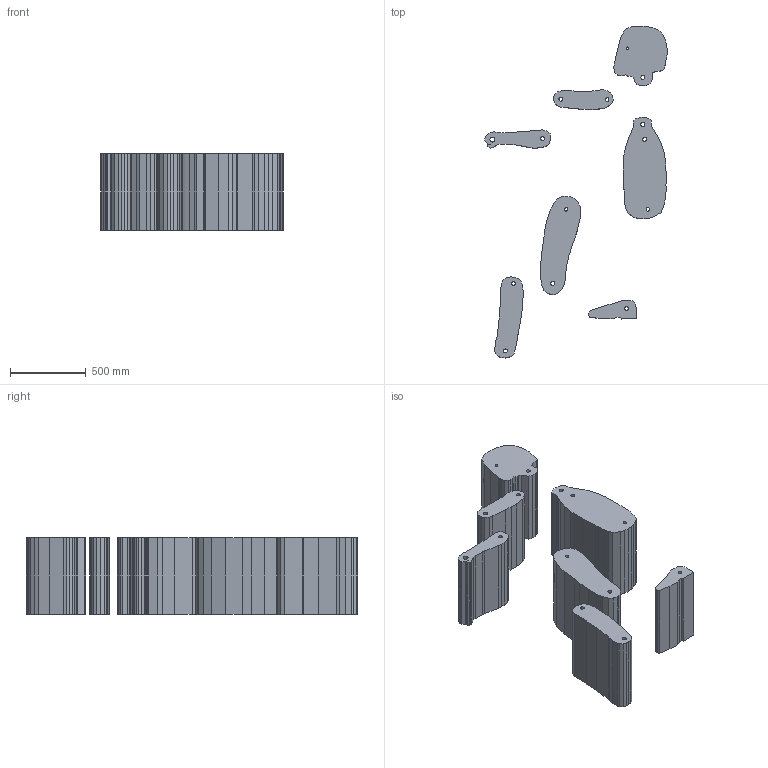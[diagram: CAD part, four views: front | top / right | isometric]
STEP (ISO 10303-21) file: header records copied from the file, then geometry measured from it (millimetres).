
FILE_DESCRIPTION(/* description */ ('Alibre Inc.'),/* implementation_level */ '2;1');
FILE_NAME(/* name */ 'export0',/* time_stamp */ '2007-03-23T19:18:20-07:00',/* author */ (''),/* organization */ (''),/* preprocessor_version */ 'ST-DEVELOPER v10',/* originating_system */ 'Alibre',/* authorisation */ '');
FILE_SCHEMA (('ALIBRE_SCHEMA','CONFIG_CONTROL_DESIGN'));
Length unit declared in the file: centimetre
Products named in the file (1): ID_1
Bounding box: 1205.06 x 2191.97 x 508 mm (x, y, z)
Volume: 279108156.5 mm3; surface area: 5919977.3 mm2
Topology: 7 solids, 7 shells, 244 faces, 690 edges, 460 vertices
Faces by surface type: plane 230, cylinder 14
Full cylindrical faces by diameter (mm): 16.509 x1, 22.786 x1, 23.937 x1, 24.256 x1, 25.163 x1, 25.206 x1, 25.225 x1, 25.961 x2, 26.176 x1, 26.321 x1, 26.44 x1, 26.461 x1, 33.019 x1
Entity records: 10270 total; most frequent: CARTESIAN_POINT 1674, ORIENTED_EDGE 1352, DIRECTION 1191, VECTOR 870, LINE 864, EDGE_CURVE 676, PERSISTANTTOPOLOGYATTRIBUTE 488, VERTEX_POINT 460
